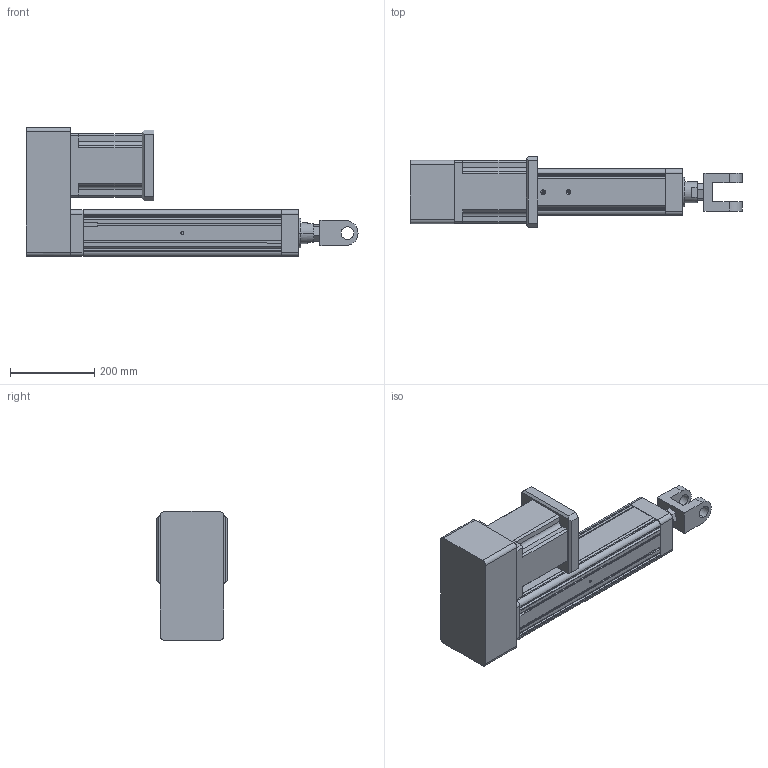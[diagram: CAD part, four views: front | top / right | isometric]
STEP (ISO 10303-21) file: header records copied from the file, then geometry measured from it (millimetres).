
FILE_DESCRIPTION (( 'STEP AP203' ), '1' );
FILE_NAME ('YRJ110-L300-H1K4.STEP', '2020-01-04T05:59:24', ( 'User' ), ( 'China' ), 'SwSTEP 2.0', 'SolidWorks 2016', '' );
FILE_SCHEMA (( 'CONFIG_CONTROL_DESIGN' ));
Length unit declared in the file: millimetre
Products named in the file (7): 095-100俴最倰第; H1-110-1; H1-110-2; 萇儂碟-110; 142熬厒儂; K4-110; YRJ110-L300-H1K4
Assembly tree (6 placements, depth 2):
  YRJ110-L300-H1K4
    095-100俴最倰第
    H1-110-1
    H1-110-2
    萇儂碟-110
    142熬厒儂
    K4-110
Bounding box: 786 x 168 x 305.5 mm (x, y, z)
Volume: 12017240.1 mm3; surface area: 929032.7 mm2
Topology: 6 solids, 6 shells, 331 faces, 908 edges, 581 vertices
Faces by surface type: plane 176, cylinder 120, cone 35
Entity records: 11402 total; most frequent: CARTESIAN_POINT 2145, DIRECTION 1797, ORIENTED_EDGE 1768, EDGE_CURVE 884, LINE 607, VECTOR 607, AXIS2_PLACEMENT_3D 595, VERTEX_POINT 581
